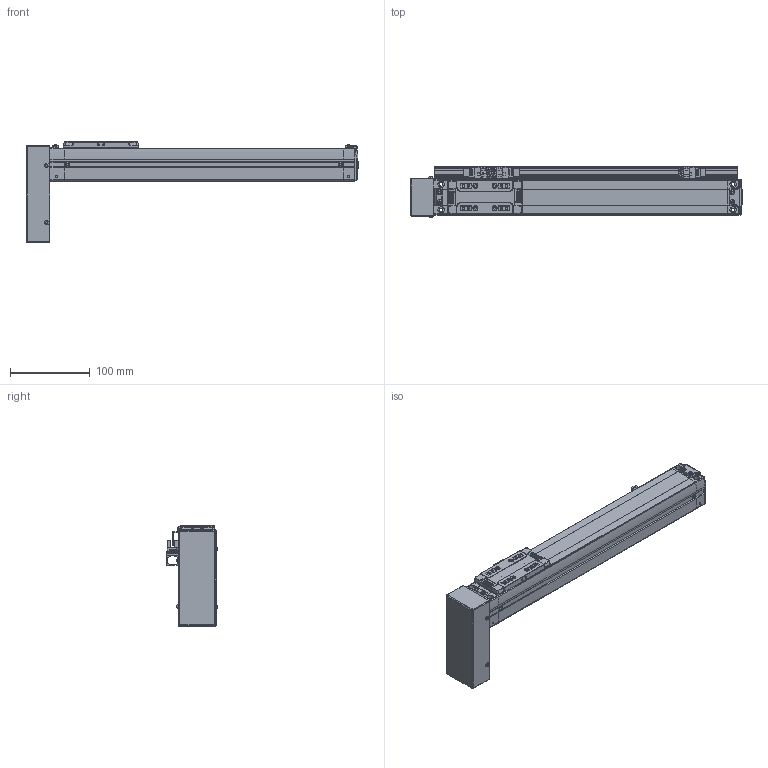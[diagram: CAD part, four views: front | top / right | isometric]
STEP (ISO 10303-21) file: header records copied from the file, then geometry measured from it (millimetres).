
FILE_DESCRIPTION(('STEP AP214'),'1');
FILE_NAME('Z:/Web/3D/SAN45/2013.ver/STP/SAN45-250PB+3SL.stp','2013-05-15T00:33:23',(' '),(' '),'Spatial InterOp 3D',' ',' ');
FILE_SCHEMA(('automotive_design'));
Length unit declared in the file: millimetre
Products named in the file (46): BODY-SAN45; REAR-SAN45; RRCV-SAN45; BHCS M3 x 6L; BHCS M3 X 6L; FRONT-SAN45; SHAFT; RN8 x 0.75; SSFX-SAN45; SLIDE-SAN45; SLCV-IM45; FHCS M3 x 6L; BTCV-SAN45; SRL-16x17-380L; EE-SX674; SBK-SX674-352; SDG-SA45; SCREW M3 x 5L
Bounding box: 416.15 x 64.06 x 126 mm (x, y, z)
Volume: 912754.4 mm3; surface area: 194020.9 mm2
Topology: 46 solids, 46 shells, 2327 faces, 6009 edges, 3859 vertices
Faces by surface type: plane 1288, cylinder 727, cone 146, sphere 84, bspline 44, torus 32, extrusion 6
Entity records: 94251 total; most frequent: CARTESIAN_POINT 16813, DIRECTION 12508, ORIENTED_EDGE 11878, EDGE_CURVE 5939, AXIS2_PLACEMENT_3D 4367, VERTEX_POINT 3859, VECTOR 3774, LINE 3768
